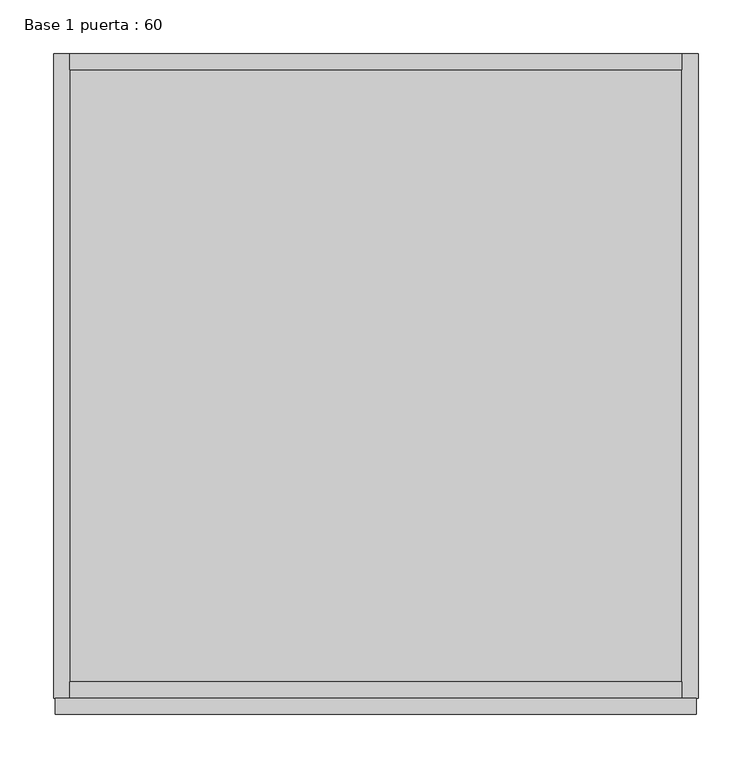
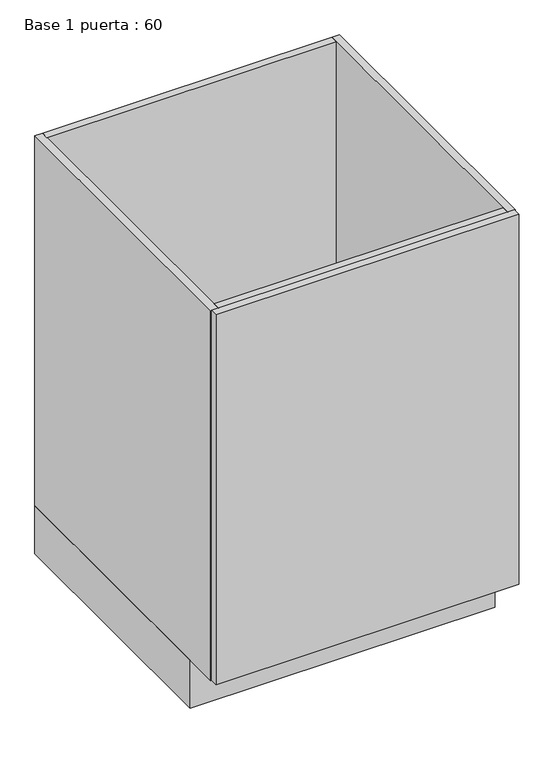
"""IFC4 building model written with IfcOpenShell, lengths in millimetres: furniture geometry, Base 1 puerta : 60."""

from ifc_helpers import new_model, si_unit, frame, origin, origin_with_axes, place, context, project, spatial, polyline, outline, extrude, source, transform, mapped, element, save


def base_1_puerta_60_9c87a0a0(model_context):
    return source(origin(), model_context, "Body", "SweptSolid", [
        extrude(outline(polyline([(343.2003264, -615.0), (-253.7996736, -615.0), (-253.7996736, -600.0), (343.2003264, -600.0), (343.2003264, -615.0)])), frame((0.0, 0.0, 100.0), z_axis=(0.0, 0.0, 1.0), x_axis=(1.0, 0.0, 0.0)), (0.0, 0.0, 1.0), 770.0),
        extrude(outline(polyline([(329.7003264, -600.0), (-240.2996736, -600.0), (-240.2996736, -585.0), (329.7003264, -585.0), (329.7003264, -600.0)])), frame((0.0, 0.0, 770.0), z_axis=(0.0, 0.0, 1.0), x_axis=(1.0, 0.0, 0.0)), (0.0, 0.0, 1.0), 100.0),
        extrude(outline(polyline([(-240.2996736, -15.0), (329.7003264, -15.0), (329.7003264, -600.0), (-240.2996736, -600.0), (-240.2996736, -15.0)])), frame((0.0, 0.0, 100.0), z_axis=(0.0, 0.0, 1.0), x_axis=(1.0, 0.0, 0.0)), (0.0, 0.0, 1.0), 15.0),
        extrude(outline(polyline([(344.7003264, 0.0), (344.7003264, -530.0), (-255.2996736, -530.0), (-255.2996736, 0.0), (344.7003264, 0.0)])), origin_with_axes(), (0.0, 0.0, 1.0), 100.0),
        extrude(outline(polyline([(329.7003264, 0.0), (329.7003264, -15.0), (-240.2996736, -15.0), (-240.2996736, 0.0), (329.7003264, 0.0)])), frame((0.0, 0.0, 100.0), z_axis=(0.0, 0.0, 1.0), x_axis=(1.0, 0.0, 0.0)), (0.0, 0.0, 1.0), 770.0),
        extrude(outline(polyline([(-240.2996736, 0.0), (-240.2996736, -600.0), (-255.2996736, -600.0), (-255.2996736, 0.0), (-240.2996736, 0.0)])), frame((0.0, 0.0, 100.0), z_axis=(0.0, 0.0, 1.0), x_axis=(1.0, 0.0, 0.0)), (0.0, 0.0, 1.0), 770.0),
        extrude(outline(polyline([(329.7003264, 0.0), (344.7003264, 0.0), (344.7003264, -600.0), (329.7003264, -600.0), (329.7003264, 0.0)])), frame((0.0, 0.0, 100.0), z_axis=(0.0, 0.0, 1.0), x_axis=(1.0, 0.0, 0.0)), (0.0, 0.0, 1.0), 770.0),
    ])


if __name__ == "__main__":
    model = new_model("IFC4")
    model_context = context("Model", 3, world=origin())
    ifc_project = project(units=[si_unit("LENGTHUNIT", "METRE", prefix="MILLI")], contexts=[model_context])
    site = spatial("IfcSite", under=ifc_project)
    building = spatial("IfcBuilding", under=site)
    placement = place(None, origin())
    base_1_puerta_60_shape = base_1_puerta_60_9c87a0a0(model_context)
    element("IfcFurniture", 1, ObjectType="Base 1 puerta : 60", at=placement, inside=building, context=model_context, shape_type="MappedRepresentation", body=[
        mapped(base_1_puerta_60_shape, transform((0.0, 0.0, 0.0), x_axis=(1.0, 0.0, 0.0), y_axis=(0.0, 1.0, 0.0), z_axis=(0.0, 0.0, 1.0))),
    ])
    save(model, "model.ifc")
